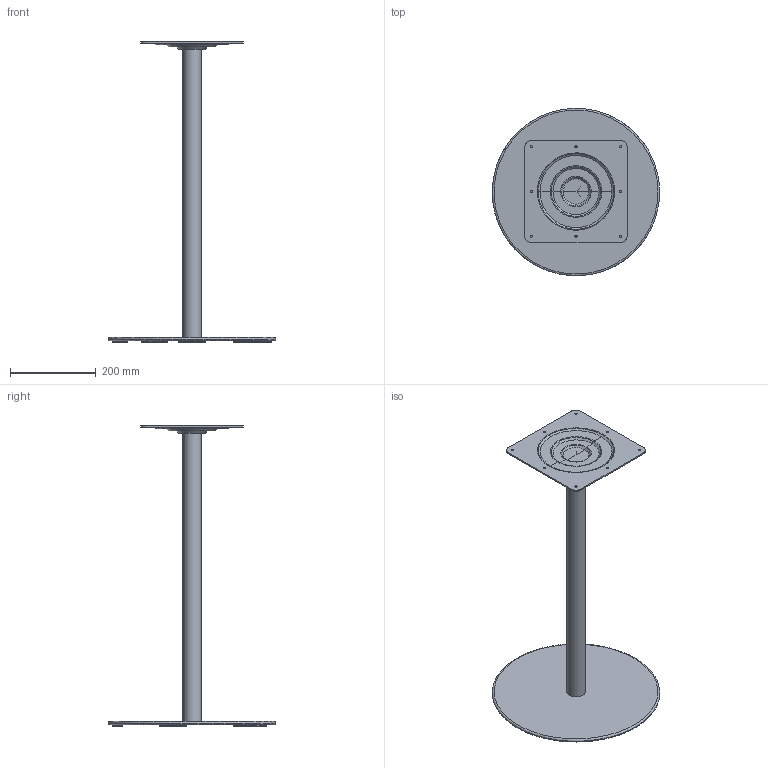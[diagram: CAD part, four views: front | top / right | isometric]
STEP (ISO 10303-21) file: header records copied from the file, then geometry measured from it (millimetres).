
FILE_DESCRIPTION(/* description */ (''),/* implementation_level */ '2;1');
FILE_NAME(/* name */ 'KINOSH~1',/* time_stamp */ '2024-11-15T16:17:53+09:00',/* author */ (''),/* organization */ (''),/* preprocessor_version */ 'ST-DEVELOPER v16.5',/* originating_system */ '',/* authorisation */ '');
FILE_SCHEMA (('AUTOMOTIVE_DESIGN'));
Length unit declared in the file: millimetre
Products named in the file (1): Document
Bounding box: 389.91 x 389.66 x 700 mm (x, y, z)
Volume: 2172888.8 mm3; surface area: 454128.8 mm2
Topology: 1 solids, 1 shells, 103 faces, 234 edges, 139 vertices
Faces by surface type: bspline 94, plane 9
Entity records: 5378 total; most frequent: CARTESIAN_POINT 4084, ORIENTED_EDGE 464, EDGE_CURVE 232, VERTEX_POINT 139, EDGE_LOOP 127, ADVANCED_FACE 103, FACE_OUTER_BOUND 103, B_SPLINE_CURVE_WITH_KNOTS 45
